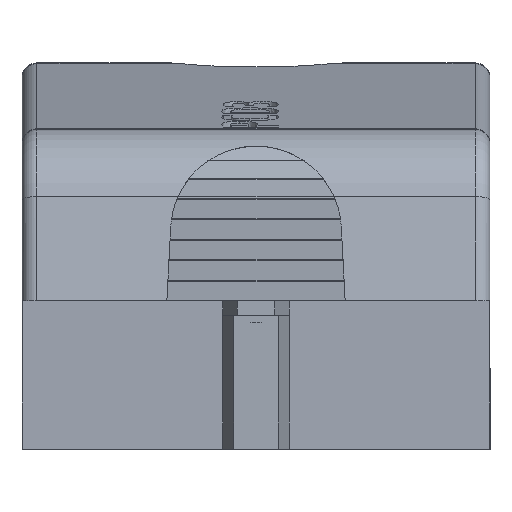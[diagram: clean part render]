
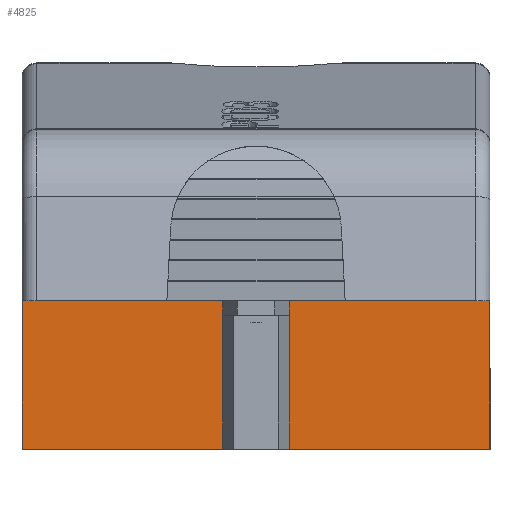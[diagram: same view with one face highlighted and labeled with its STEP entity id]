
A CAD part, front view. The second image highlights one B-rep face of the part: STEP entity #4825.
In plain terms, the highlighted planar face has unit normal (0, -1, -0.01).
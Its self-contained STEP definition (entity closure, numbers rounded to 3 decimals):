
#3190=EDGE_CURVE('',#3191,#3193,#3195,.T.);
#3191=VERTEX_POINT('',#3192);
#3192=CARTESIAN_POINT('',(0.,0.812,-1.156));
#3193=VERTEX_POINT('',#3194);
#3194=CARTESIAN_POINT('',(0.,0.9,-10.0));
#3195=LINE('',#3196,#3197);
#3196=CARTESIAN_POINT('',(0.0,0.8,0.0));
#3197=VECTOR('',#3198,1.0);
#3198=DIRECTION('',(0.0,0.01,-1.));
#3304=EDGE_CURVE('',#3305,#3191,#3307,.F.);
#3305=VERTEX_POINT('',#3306);
#3306=CARTESIAN_POINT('',(-0.023,0.8,0.));
#3307=ELLIPSE('',#3308,5.45,1.0);
#3308=AXIS2_PLACEMENT_3D('',#3309,#3310,#3311);
#3309=CARTESIAN_POINT('',(-1.0,0.812,-1.156));
#3310=DIRECTION('',(0.,-1.,-0.01));
#3311=DIRECTION('',(0.,0.01,-1.));
#3332=VERTEX_POINT('',#3333);
#3333=CARTESIAN_POINT('',(-31.5,0.812,-1.156));
#3424=VERTEX_POINT('',#3425);
#3425=CARTESIAN_POINT('',(-31.5,0.9,-10.0));
#3431=EDGE_CURVE('',#3424,#3332,#3432,.F.);
#3432=LINE('',#3433,#3434);
#3433=CARTESIAN_POINT('',(-31.5,0.8,0.));
#3434=VECTOR('',#3435,1.0);
#3435=DIRECTION('',(0.0,0.01,-1.));
#3446=VERTEX_POINT('',#3447);
#3447=CARTESIAN_POINT('',(-31.477,0.8,0.));
#3457=EDGE_CURVE('',#3332,#3446,#3458,.T.);
#3458=ELLIPSE('',#3459,5.45,1.0);
#3459=AXIS2_PLACEMENT_3D('',#3460,#3461,#3462);
#3460=CARTESIAN_POINT('',(-30.5,0.812,-1.156));
#3461=DIRECTION('',(0.,1.,0.01));
#3462=DIRECTION('',(0.,0.01,-1.));
#3472=EDGE_CURVE('',#3473,#3305,#3475,.F.);
#3473=VERTEX_POINT('',#3474);
#3474=CARTESIAN_POINT('',(-13.5,0.8,0.));
#3475=LINE('',#3476,#3477);
#3476=CARTESIAN_POINT('',(0.,0.8,0.));
#3477=VECTOR('',#3478,1.0);
#3478=DIRECTION('',(-1.0,0.,0.));
#3496=EDGE_CURVE('',#3446,#3497,#3499,.F.);
#3497=VERTEX_POINT('',#3498);
#3498=CARTESIAN_POINT('',(-18.0,0.8,0.));
#3499=LINE('',#3500,#3501);
#3500=CARTESIAN_POINT('',(0.,0.8,0.));
#3501=VECTOR('',#3502,1.0);
#3502=DIRECTION('',(-1.0,0.,0.));
#4825=ADVANCED_FACE('',(#4826),#4846,.T.);
#4826=FACE_BOUND('',#4827,.T.);
#4827=EDGE_LOOP('',(#4828,#4829,#4835,#4836,#4837,#4838,#4844,#4845));
#4828=ORIENTED_EDGE('',*,*,#3472,.F.);
#4829=ORIENTED_EDGE('',*,*,#4830,.T.);
#4830=EDGE_CURVE('',#3473,#3497,#4831,.T.);
#4831=LINE('',#4832,#4833);
#4832=CARTESIAN_POINT('',(-13.5,0.8,0.0));
#4833=VECTOR('',#4834,1.0);
#4834=DIRECTION('',(-1.0,0.0,0.0));
#4835=ORIENTED_EDGE('',*,*,#3496,.F.);
#4836=ORIENTED_EDGE('',*,*,#3457,.F.);
#4837=ORIENTED_EDGE('',*,*,#3431,.F.);
#4838=ORIENTED_EDGE('',*,*,#4839,.T.);
#4839=EDGE_CURVE('',#3424,#3193,#4840,.F.);
#4840=LINE('',#4841,#4842);
#4841=CARTESIAN_POINT('',(0.,0.9,-10.0));
#4842=VECTOR('',#4843,1.0);
#4843=DIRECTION('',(-1.0,0.,0.));
#4844=ORIENTED_EDGE('',*,*,#3190,.F.);
#4845=ORIENTED_EDGE('',*,*,#3304,.F.);
#4846=PLANE('',#4847);
#4847=AXIS2_PLACEMENT_3D('',#4848,#4849,#4850);
#4848=CARTESIAN_POINT('',(0.,0.8,0.));
#4849=DIRECTION('',(0.,-1.,-0.01));
#4850=DIRECTION('',(0.,0.01,-1.));
